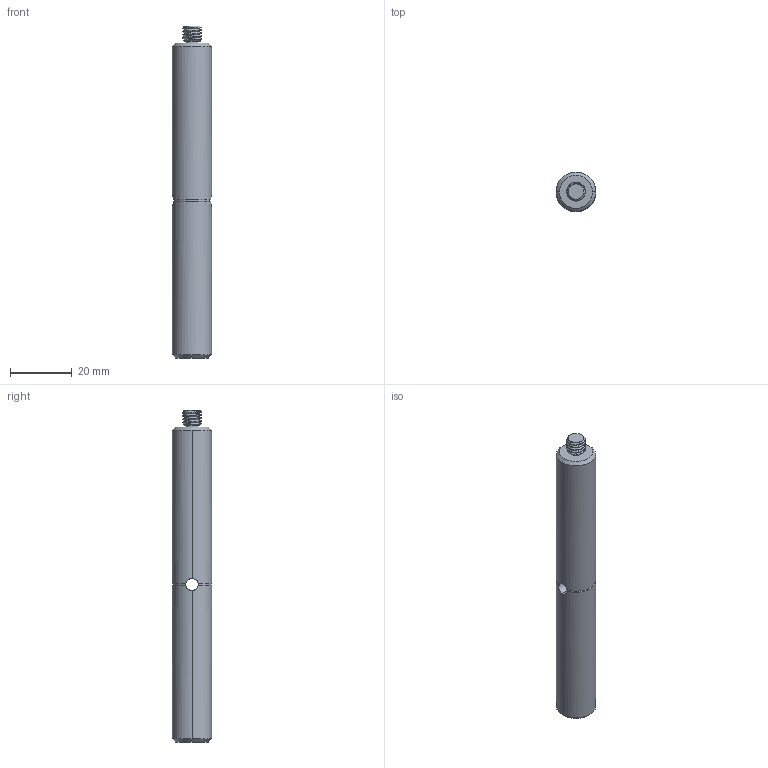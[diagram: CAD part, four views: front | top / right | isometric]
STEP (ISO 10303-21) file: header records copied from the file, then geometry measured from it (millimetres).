
FILE_DESCRIPTION((''),'2;1');
FILE_NAME('PCAH4-A','2023-03-14T14:27:17',('R&D'),(''),'CREO PARAMETRIC BY PTC INC, 2022162','CREO PARAMETRIC BY PTC INC, 2022162','');
FILE_SCHEMA(('CONFIG_CONTROL_DESIGN'));
Length unit declared in the file: millimetre
Products named in the file (1): PCAH4-A
Bounding box: 12.7 x 12.7 x 107.1 mm (x, y, z)
Volume: 12517 mm3; surface area: 4793.2 mm2
Topology: 1 solids, 1 shells, 69 faces, 184 edges, 116 vertices
Faces by surface type: cylinder 37, bspline 14, cone 12, plane 4, torus 2
Entity records: 4590 total; most frequent: CARTESIAN_POINT 3045, ORIENTED_EDGE 364, DIRECTION 229, EDGE_CURVE 182, VERTEX_POINT 116, B_SPLINE_CURVE_WITH_KNOTS 93, AXIS2_PLACEMENT_3D 85, EDGE_LOOP 72
